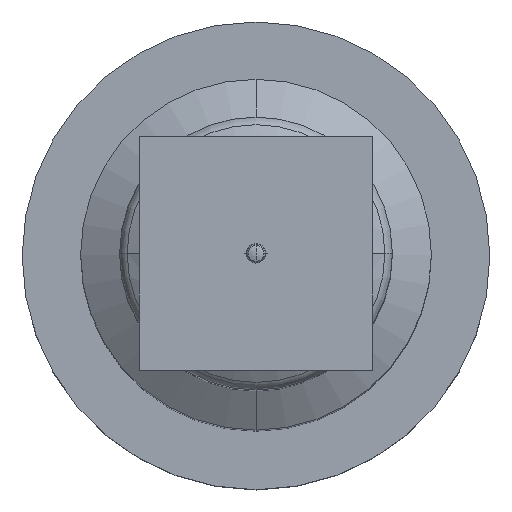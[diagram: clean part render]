
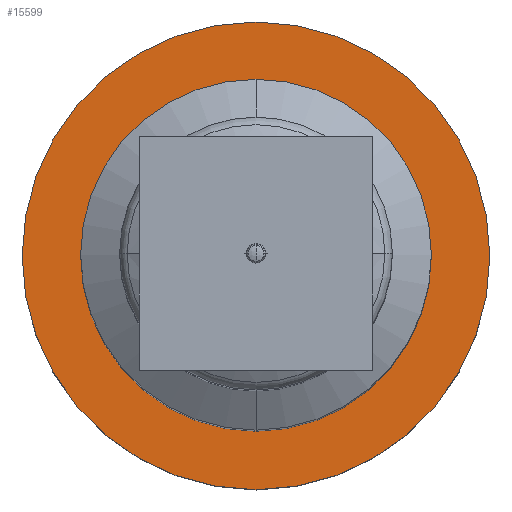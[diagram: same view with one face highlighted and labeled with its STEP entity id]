
A CAD part, top view. The second image highlights one B-rep face of the part: STEP entity #15599.
In plain terms, the highlighted planar face has unit normal (0, 0, 1).
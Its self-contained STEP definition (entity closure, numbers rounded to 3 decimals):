
#196 = CIRCLE ( 'NONE', #6662, 22.5 ) ;
#373 = EDGE_LOOP ( 'NONE', ( #2050, #14254 ) ) ;
#380 = DIRECTION ( 'NONE',  ( 0., 0., -1. ) ) ;
#496 = CARTESIAN_POINT ( 'NONE',  ( 0., 0., 35. ) ) ;
#544 = CARTESIAN_POINT ( 'NONE',  ( 0., 0., 35. ) ) ;
#766 = EDGE_CURVE ( 'NONE', #13210, #13572, #6921, .T. ) ;
#1009 = DIRECTION ( 'NONE',  ( 0., 0., -1. ) ) ;
#1237 = DIRECTION ( 'NONE',  ( 0., 0., 1. ) ) ;
#1612 = VERTEX_POINT ( 'NONE', #3788 ) ;
#2050 = ORIENTED_EDGE ( 'NONE', *, *, #8389, .F. ) ;
#2167 = AXIS2_PLACEMENT_3D ( 'NONE', #10649, #1237, #11887 ) ;
#2512 = EDGE_CURVE ( 'NONE', #13572, #13210, #196, .T. ) ;
#2670 = AXIS2_PLACEMENT_3D ( 'NONE', #9121, #11694, #13145 ) ;
#3788 = CARTESIAN_POINT ( 'NONE',  ( 0., 30., 35. ) ) ;
#4228 = FACE_OUTER_BOUND ( 'NONE', #373, .T. ) ;
#6323 = CARTESIAN_POINT ( 'NONE',  ( 0., -30., 35. ) ) ;
#6373 = DIRECTION ( 'NONE',  ( 0., 1., 0. ) ) ;
#6662 = AXIS2_PLACEMENT_3D ( 'NONE', #544, #15136, #8592 ) ;
#6921 = CIRCLE ( 'NONE', #10970, 22.5 ) ;
#7028 = CARTESIAN_POINT ( 'NONE',  ( 0., 22.5, 35. ) ) ;
#7165 = ORIENTED_EDGE ( 'NONE', *, *, #2512, .T. ) ;
#8389 = EDGE_CURVE ( 'NONE', #1612, #16479, #9423, .T. ) ;
#8592 = DIRECTION ( 'NONE',  ( 0., 1., 0. ) ) ;
#8756 = CIRCLE ( 'NONE', #2670, 30. ) ;
#9121 = CARTESIAN_POINT ( 'NONE',  ( 0., 0., 35. ) ) ;
#9145 = PLANE ( 'NONE',  #2167 ) ;
#9423 = CIRCLE ( 'NONE', #16947, 30. ) ;
#9880 = DIRECTION ( 'NONE',  ( 0., 1., 0. ) ) ;
#10210 = CARTESIAN_POINT ( 'NONE',  ( 0., 0., 35. ) ) ;
#10649 = CARTESIAN_POINT ( 'NONE',  ( 0., 22.5, 35. ) ) ;
#10883 = EDGE_CURVE ( 'NONE', #16479, #1612, #8756, .T. ) ;
#10970 = AXIS2_PLACEMENT_3D ( 'NONE', #10210, #1009, #6373 ) ;
#11298 = FACE_BOUND ( 'NONE', #14161, .T. ) ;
#11694 = DIRECTION ( 'NONE',  ( 0., 0., -1. ) ) ;
#11887 = DIRECTION ( 'NONE',  ( 0., -1., 0. ) ) ;
#13145 = DIRECTION ( 'NONE',  ( 0., 1., 0. ) ) ;
#13210 = VERTEX_POINT ( 'NONE', #16846 ) ;
#13572 = VERTEX_POINT ( 'NONE', #7028 ) ;
#14161 = EDGE_LOOP ( 'NONE', ( #7165, #14720 ) ) ;
#14254 = ORIENTED_EDGE ( 'NONE', *, *, #10883, .F. ) ;
#14720 = ORIENTED_EDGE ( 'NONE', *, *, #766, .T. ) ;
#15136 = DIRECTION ( 'NONE',  ( 0., 0., -1. ) ) ;
#15599 = ADVANCED_FACE ( 'NONE', ( #11298, #4228 ), #9145, .T. ) ;
#16479 = VERTEX_POINT ( 'NONE', #6323 ) ;
#16846 = CARTESIAN_POINT ( 'NONE',  ( 0., -22.5, 35. ) ) ;
#16947 = AXIS2_PLACEMENT_3D ( 'NONE', #496, #380, #9880 ) ;
